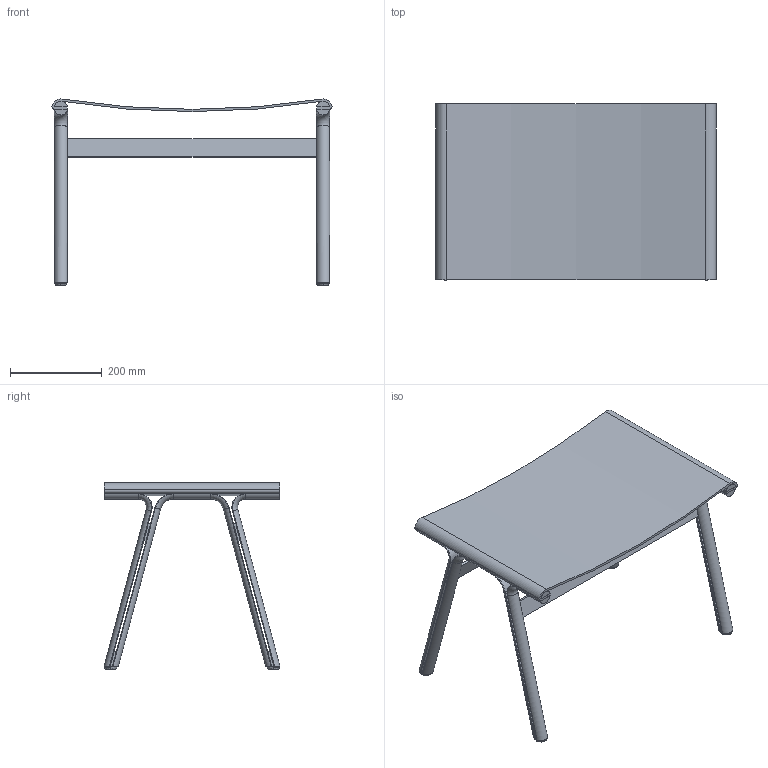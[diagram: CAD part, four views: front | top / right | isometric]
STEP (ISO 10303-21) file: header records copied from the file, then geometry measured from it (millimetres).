
FILE_DESCRIPTION(/* description */ (''),/* implementation_level */ '2;1');
FILE_NAME(/* name */ 'FRAMA_Union Stool.step',/* time_stamp */ '2025-11-07T16:40:24+01:00',/* author */ (''),/* organization */ (''),/* preprocessor_version */ 'ST-DEVELOPER v20.1',/* originating_system */ 'Autodesk Translation Framework v14.17.0.0',/* authorisation */ '');
FILE_SCHEMA (('AUTOMOTIVE_DESIGN { 1 0 10303 214 3 1 1 }'));
Length unit declared in the file: millimetre
Products named in the file (15): Stool_for_issue_23_03_25; outer_leg; horizontal_brace (1); foot_75 (1); foot_75 (1) (1); central_connector; outer_leg (2); outer_leg (1) (1); central_connector (1); fabric; horizontal_brace; seat_bar (1); outer_leg (1); seat_bar; foot_75 (2)
Assembly tree (15 placements, depth 2):
  Stool_for_issue_23_03_25
    outer_leg
    horizontal_brace (1)
    foot_75 (1)
    foot_75 (1) (1)
    central_connector
    outer_leg (2)
    outer_leg (1) (1)
    central_connector (1)
    fabric
    horizontal_brace
    seat_bar (1)
    foot_75 (2)  x2
    outer_leg (1)
    seat_bar
Bounding box: 609.5 x 383 x 405 mm (x, y, z)
Volume: 2804659.7 mm3; surface area: 971392.4 mm2
Topology: 15 solids, 15 shells, 242 faces, 524 edges, 316 vertices
Faces by surface type: cylinder 90, plane 80, torus 48, bspline 24
Entity records: 7647 total; most frequent: CARTESIAN_POINT 2221, DIRECTION 1179, ORIENTED_EDGE 966, EDGE_CURVE 483, AXIS2_PLACEMENT_3D 483, VERTEX_POINT 289, EDGE_LOOP 228, FACE_OUTER_BOUND 225
